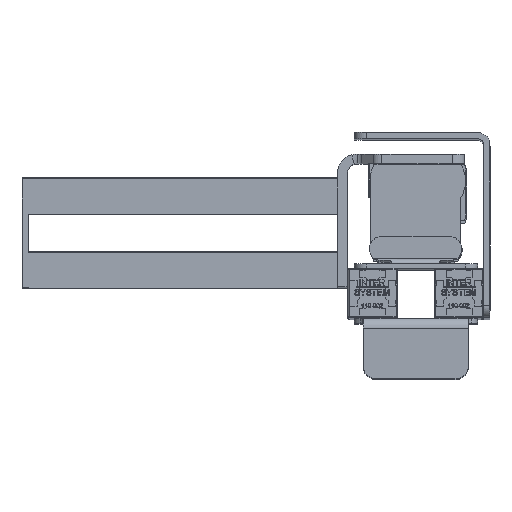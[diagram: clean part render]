
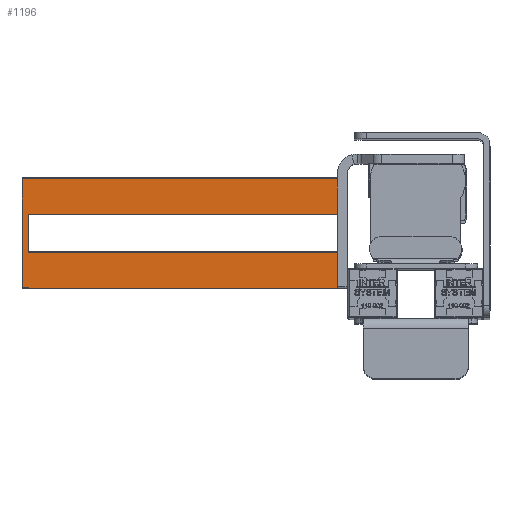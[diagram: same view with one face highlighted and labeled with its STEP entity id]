
A CAD part, top view. The second image highlights one B-rep face of the part: STEP entity #1196.
In plain terms, the highlighted planar face has unit normal (0, 0, 1).
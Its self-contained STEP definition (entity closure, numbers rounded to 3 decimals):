
#237=CARTESIAN_POINT('',(-313.572,38.048,-212.7));
#238=VERTEX_POINT('',#237);
#246=CARTESIAN_POINT('',(-313.572,7.048,-212.7));
#247=VERTEX_POINT('',#246);
#248=CARTESIAN_POINT('',(-313.572,7.048,-212.7));
#249=DIRECTION('',(0.0,1.0,0.0));
#250=VECTOR('',#249,31.);
#251=LINE('',#248,#250);
#252=EDGE_CURVE('',#247,#238,#251,.T.);
#432=CARTESIAN_POINT('',(-318.572,-21.452,-212.7));
#433=VERTEX_POINT('',#432);
#441=CARTESIAN_POINT('',(-318.572,66.548,-212.7));
#442=VERTEX_POINT('',#441);
#443=CARTESIAN_POINT('',(-318.572,-21.452,-212.7));
#444=DIRECTION('',(0.0,1.0,0.0));
#445=VECTOR('',#444,88.);
#446=LINE('',#443,#445);
#447=EDGE_CURVE('',#433,#442,#446,.T.);
#489=CARTESIAN_POINT('',(-313.572,-21.452,-212.7));
#490=VERTEX_POINT('',#489);
#500=CARTESIAN_POINT('',(-318.572,-21.452,-212.7));
#501=DIRECTION('',(1.0,0.0,0.0));
#502=VECTOR('',#501,5.0);
#503=LINE('',#500,#502);
#504=EDGE_CURVE('',#433,#490,#503,.T.);
#523=CARTESIAN_POINT('',(-313.572,66.548,-212.7));
#524=VERTEX_POINT('',#523);
#539=CARTESIAN_POINT('',(-318.572,66.548,-212.7));
#540=DIRECTION('',(1.0,0.0,0.0));
#541=VECTOR('',#540,5.0);
#542=LINE('',#539,#541);
#543=EDGE_CURVE('',#442,#524,#542,.T.);
#626=CARTESIAN_POINT('',(-313.572,-21.952,-212.7));
#627=VERTEX_POINT('',#626);
#635=CARTESIAN_POINT('',(-313.572,-21.452,-212.7));
#636=DIRECTION('',(0.0,-1.0,0.0));
#637=VECTOR('',#636,0.5);
#638=LINE('',#635,#637);
#639=EDGE_CURVE('',#490,#627,#638,.T.);
#1112=CARTESIAN_POINT('',(-63.572,-21.952,-212.7));
#1113=VERTEX_POINT('',#1112);
#1123=CARTESIAN_POINT('',(-63.572,-21.952,-212.7));
#1124=DIRECTION('',(-1.0,0.0,0.0));
#1125=VECTOR('',#1124,250.0);
#1126=LINE('',#1123,#1125);
#1127=EDGE_CURVE('',#1113,#627,#1126,.T.);
#1139=CARTESIAN_POINT('',(-188.572,-21.952,-212.7));
#1140=DIRECTION('',(0.0,0.0,1.0));
#1141=DIRECTION('',(1.0,0.0,0.0));
#1142=AXIS2_PLACEMENT_3D('',#1139,#1140,#1141);
#1143=PLANE('',#1142);
#1144=CARTESIAN_POINT('',(-63.572,7.048,-212.7));
#1145=VERTEX_POINT('',#1144);
#1146=CARTESIAN_POINT('',(-63.572,7.048,-212.7));
#1147=DIRECTION('',(0.0,-1.0,0.0));
#1148=VECTOR('',#1147,29.);
#1149=LINE('',#1146,#1148);
#1150=EDGE_CURVE('',#1145,#1113,#1149,.T.);
#1151=ORIENTED_EDGE('',*,*,#1150,.F.);
#1152=CARTESIAN_POINT('',(-63.572,7.048,-212.7));
#1153=DIRECTION('',(-1.0,0.0,0.0));
#1154=VECTOR('',#1153,250.0);
#1155=LINE('',#1152,#1154);
#1156=EDGE_CURVE('',#1145,#247,#1155,.T.);
#1157=ORIENTED_EDGE('',*,*,#1156,.T.);
#1158=ORIENTED_EDGE('',*,*,#252,.T.);
#1159=CARTESIAN_POINT('',(-63.572,38.048,-212.7));
#1160=VERTEX_POINT('',#1159);
#1161=CARTESIAN_POINT('',(-63.572,38.048,-212.7));
#1162=DIRECTION('',(-1.0,0.0,0.0));
#1163=VECTOR('',#1162,250.0);
#1164=LINE('',#1161,#1163);
#1165=EDGE_CURVE('',#1160,#238,#1164,.T.);
#1166=ORIENTED_EDGE('',*,*,#1165,.F.);
#1167=CARTESIAN_POINT('',(-63.572,67.048,-212.7));
#1168=VERTEX_POINT('',#1167);
#1169=CARTESIAN_POINT('',(-63.572,67.048,-212.7));
#1170=DIRECTION('',(0.0,-1.0,0.0));
#1171=VECTOR('',#1170,29.);
#1172=LINE('',#1169,#1171);
#1173=EDGE_CURVE('',#1168,#1160,#1172,.T.);
#1174=ORIENTED_EDGE('',*,*,#1173,.F.);
#1175=CARTESIAN_POINT('',(-313.572,67.048,-212.7));
#1176=VERTEX_POINT('',#1175);
#1177=CARTESIAN_POINT('',(-63.572,67.048,-212.7));
#1178=DIRECTION('',(-1.0,0.0,0.0));
#1179=VECTOR('',#1178,250.0);
#1180=LINE('',#1177,#1179);
#1181=EDGE_CURVE('',#1168,#1176,#1180,.T.);
#1182=ORIENTED_EDGE('',*,*,#1181,.T.);
#1183=CARTESIAN_POINT('',(-313.572,67.048,-212.7));
#1184=DIRECTION('',(0.0,-1.0,0.0));
#1185=VECTOR('',#1184,0.5);
#1186=LINE('',#1183,#1185);
#1187=EDGE_CURVE('',#1176,#524,#1186,.T.);
#1188=ORIENTED_EDGE('',*,*,#1187,.T.);
#1189=ORIENTED_EDGE('',*,*,#543,.F.);
#1190=ORIENTED_EDGE('',*,*,#447,.F.);
#1191=ORIENTED_EDGE('',*,*,#504,.T.);
#1192=ORIENTED_EDGE('',*,*,#639,.T.);
#1193=ORIENTED_EDGE('',*,*,#1127,.F.);
#1194=EDGE_LOOP('',(#1151,#1157,#1158,#1166,#1174,#1182,#1188,#1189,#1190,#1191,#1192,#1193));
#1195=FACE_OUTER_BOUND('',#1194,.T.);
#1196=ADVANCED_FACE('',(#1195),#1143,.T.);
